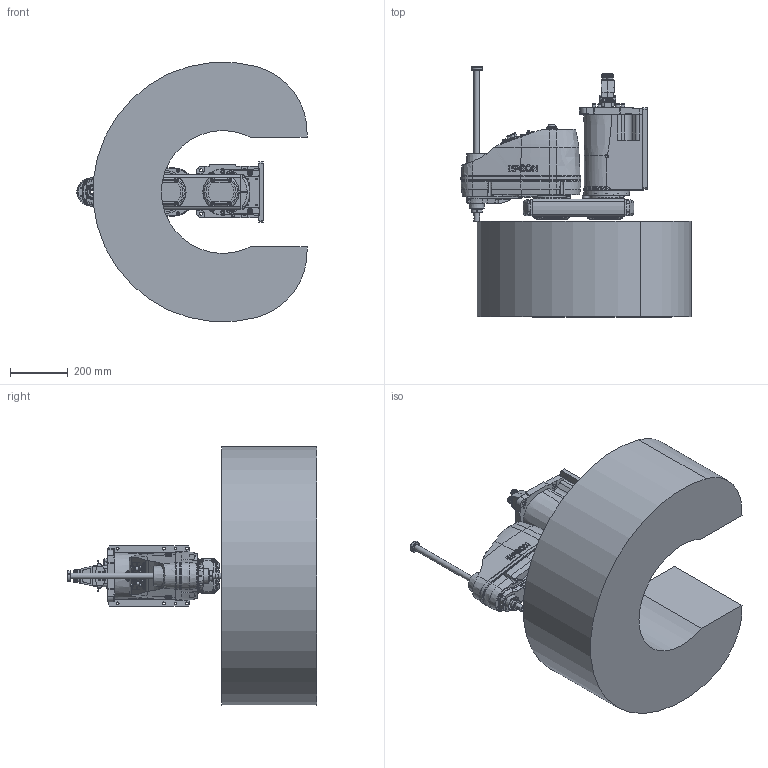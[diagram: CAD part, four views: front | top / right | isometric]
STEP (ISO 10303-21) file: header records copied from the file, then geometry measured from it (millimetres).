
FILE_DESCRIPTION( ( 'STEP AP214' ), '1' );
FILE_NAME( 'C:/Users/9607552/Desktop/GX8-B453SW_straight.stp', '2023-07-07T02:07:08', ( '' ), ( '' ), ' ', 'PARTsolutions', ' ' );
FILE_SCHEMA( ( 'AUTOMOTIVE_DESIGN { 1 0 10303 214 1 1 1 1 }' ) );
Length unit declared in the file: millimetre
Products named in the file (9): GX8-B453SWS-W; _B452SW_BASE; _B452SR; _B452SR_1; _B452SR_2; _B452S_J2; _B453SZA; _Straight-B; _GX8-15-1-B_WS
Assembly tree (10 placements, depth 2):
  GX8-B453SWS-W
    _B452SW_BASE
    _B452SR
    _B452SR_1  x2
    _B452SR_2  x2
    _B452S_J2
    _B453SZA
    _Straight-B
    _GX8-15-1-B_WS
Bounding box: 796.98 x 865 x 896.58 mm (x, y, z)
Volume: 144340261.8 mm3; surface area: 3024627.7 mm2
Topology: 10 solids, 10 shells, 2895 faces, 7087 edges, 4624 vertices
Faces by surface type: plane 1449, cylinder 931, cone 350, torus 122, bspline 37, sphere 6
Full cylindrical faces by diameter (mm): 1 x48, 1.18 x55, 2.261 x4, 2.459 x12, 3 x32, 3.242 x18, 3.3 x5, 3.9 x4, 4 x4, 4.2 x8, 4.5 x4, 4.8 x5, 5.34 x4, 5.5 x17, 6 x2, 6.2 x4, 6.647 x4, 6.8 x2, 7 x42, 8 x5, 8.5 x4, 9 x24, 10 x24, 11 x4, 11.2 x5, 11.5 x1, 12 x5, 12.25 x1, 13 x7, 13.2 x12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
Entity records: 103376 total; most frequent: CARTESIAN_POINT 19517, DIRECTION 12767, ORIENTED_EDGE 11810, EDGE_CURVE 5905, AXIS2_PLACEMENT_3D 4918, VERTEX_POINT 4251, EDGE_LOOP 3839, FACE_OUTER_BOUND 3194
